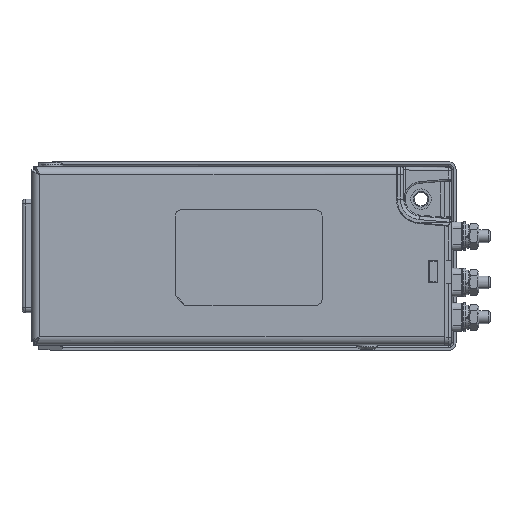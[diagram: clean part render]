
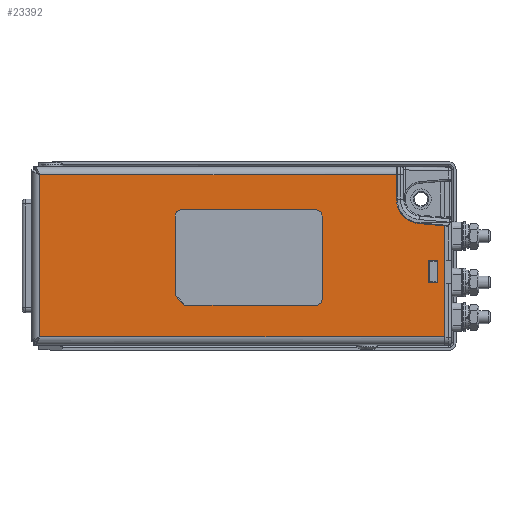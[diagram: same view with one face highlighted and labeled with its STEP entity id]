
A CAD part, top view. The second image highlights one B-rep face of the part: STEP entity #23392.
In plain terms, the highlighted planar face has unit normal (0, 0, 1).
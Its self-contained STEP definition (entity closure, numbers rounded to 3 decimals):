
#490=FACE_BOUND('',#3763,.T.);
#491=FACE_BOUND('',#3764,.T.);
#1130=PLANE('',#25701);
#2399=FACE_OUTER_BOUND('',#3762,.T.);
#3762=EDGE_LOOP('',(#20351,#20352,#20353,#20354,#20355,#20356,#20357,#20358));
#3763=EDGE_LOOP('',(#20359,#20360,#20361,#20362));
#3764=EDGE_LOOP('',(#20363,#20364,#20365,#20366,#20367,#20368,#20369,#20370,
#20371,#20372));
#4332=CIRCLE('',#24192,7.5);
#4925=CIRCLE('',#25702,2.);
#4926=CIRCLE('',#25703,2.);
#4927=CIRCLE('',#25704,2.);
#5234=LINE('',#33701,#7133);
#5235=LINE('',#33752,#7134);
#5239=LINE('',#33790,#7138);
#5290=LINE('',#33896,#7189);
#5293=LINE('',#33901,#7192);
#5295=LINE('',#33905,#7194);
#5297=LINE('',#33908,#7196);
#5359=LINE('',#34031,#7258);
#5362=LINE('',#34036,#7261);
#5892=LINE('',#35734,#7791);
#5906=LINE('',#35776,#7805);
#5924=LINE('',#35909,#7823);
#5927=LINE('',#35913,#7826);
#6817=LINE('',#42809,#8716);
#6818=LINE('',#42813,#8717);
#6819=LINE('',#42817,#8718);
#6820=LINE('',#42821,#8719);
#6821=LINE('',#42822,#8720);
#7133=VECTOR('',#26431,10.);
#7134=VECTOR('',#26436,10.);
#7138=VECTOR('',#26446,10.);
#7189=VECTOR('',#26531,10.);
#7192=VECTOR('',#26536,10.);
#7194=VECTOR('',#26540,10.);
#7196=VECTOR('',#26544,10.);
#7258=VECTOR('',#26670,10.);
#7261=VECTOR('',#26675,10.);
#7791=VECTOR('',#28173,10.);
#7805=VECTOR('',#28207,10.);
#7823=VECTOR('',#28255,10.);
#7826=VECTOR('',#28260,10.);
#8716=VECTOR('',#32158,10.);
#8717=VECTOR('',#32161,10.);
#8718=VECTOR('',#32164,10.);
#8719=VECTOR('',#32167,10.);
#8720=VECTOR('',#32168,10.);
#9088=VERTEX_POINT('',#33417);
#9091=VERTEX_POINT('',#33465);
#9154=VERTEX_POINT('',#33700);
#9158=VERTEX_POINT('',#33788);
#9195=VERTEX_POINT('',#33894);
#9196=VERTEX_POINT('',#33895);
#9197=VERTEX_POINT('',#33900);
#9198=VERTEX_POINT('',#33904);
#9218=VERTEX_POINT('',#34004);
#9225=VERTEX_POINT('',#34024);
#9227=VERTEX_POINT('',#34030);
#9672=VERTEX_POINT('',#35732);
#9690=VERTEX_POINT('',#35775);
#9706=VERTEX_POINT('',#35827);
#9714=VERTEX_POINT('',#35908);
#10705=VERTEX_POINT('',#42808);
#10706=VERTEX_POINT('',#42810);
#10707=VERTEX_POINT('',#42812);
#10708=VERTEX_POINT('',#42814);
#10709=VERTEX_POINT('',#42816);
#10710=VERTEX_POINT('',#42818);
#10711=VERTEX_POINT('',#42820);
#11194=EDGE_CURVE('',#9154,#9088,#5234,.T.);
#11199=EDGE_CURVE('',#9088,#9091,#5235,.T.);
#11204=EDGE_CURVE('',#9091,#9158,#5239,.T.);
#11255=EDGE_CURVE('',#9195,#9196,#5290,.T.);
#11258=EDGE_CURVE('',#9197,#9195,#5293,.T.);
#11260=EDGE_CURVE('',#9198,#9197,#5295,.T.);
#11262=EDGE_CURVE('',#9196,#9198,#5297,.T.);
#11324=EDGE_CURVE('',#9227,#9225,#5359,.T.);
#11327=EDGE_CURVE('',#9218,#9227,#5362,.T.);
#12069=EDGE_CURVE('',#9672,#9158,#5892,.T.);
#12090=EDGE_CURVE('',#9690,#9154,#5906,.T.);
#12110=EDGE_CURVE('',#9706,#9690,#4332,.T.);
#12121=EDGE_CURVE('',#9714,#9706,#5924,.T.);
#12124=EDGE_CURVE('',#9714,#9672,#5927,.T.);
#13929=EDGE_CURVE('',#9225,#10705,#6817,.T.);
#13930=EDGE_CURVE('',#10705,#10706,#4925,.T.);
#13931=EDGE_CURVE('',#10706,#10707,#6818,.T.);
#13932=EDGE_CURVE('',#10707,#10708,#4926,.T.);
#13933=EDGE_CURVE('',#10708,#10709,#6819,.T.);
#13934=EDGE_CURVE('',#10709,#10710,#4927,.T.);
#13935=EDGE_CURVE('',#10710,#10711,#6820,.T.);
#13936=EDGE_CURVE('',#10711,#9218,#6821,.T.);
#20351=ORIENTED_EDGE('',*,*,#11199,.T.);
#20352=ORIENTED_EDGE('',*,*,#11204,.T.);
#20353=ORIENTED_EDGE('',*,*,#12069,.F.);
#20354=ORIENTED_EDGE('',*,*,#12124,.F.);
#20355=ORIENTED_EDGE('',*,*,#12121,.T.);
#20356=ORIENTED_EDGE('',*,*,#12110,.T.);
#20357=ORIENTED_EDGE('',*,*,#12090,.T.);
#20358=ORIENTED_EDGE('',*,*,#11194,.T.);
#20359=ORIENTED_EDGE('',*,*,#11255,.T.);
#20360=ORIENTED_EDGE('',*,*,#11262,.T.);
#20361=ORIENTED_EDGE('',*,*,#11260,.T.);
#20362=ORIENTED_EDGE('',*,*,#11258,.T.);
#20363=ORIENTED_EDGE('',*,*,#13929,.T.);
#20364=ORIENTED_EDGE('',*,*,#13930,.T.);
#20365=ORIENTED_EDGE('',*,*,#13931,.T.);
#20366=ORIENTED_EDGE('',*,*,#13932,.T.);
#20367=ORIENTED_EDGE('',*,*,#13933,.T.);
#20368=ORIENTED_EDGE('',*,*,#13934,.T.);
#20369=ORIENTED_EDGE('',*,*,#13935,.T.);
#20370=ORIENTED_EDGE('',*,*,#13936,.T.);
#20371=ORIENTED_EDGE('',*,*,#11327,.T.);
#20372=ORIENTED_EDGE('',*,*,#11324,.T.);
#23392=ADVANCED_FACE('',(#2399,#490,#491),#1130,.T.);
#24192=AXIS2_PLACEMENT_3D('',#35828,#28239,#28240);
#25701=AXIS2_PLACEMENT_3D('',#42807,#32156,#32157);
#25702=AXIS2_PLACEMENT_3D('',#42811,#32159,#32160);
#25703=AXIS2_PLACEMENT_3D('',#42815,#32162,#32163);
#25704=AXIS2_PLACEMENT_3D('',#42819,#32165,#32166);
#26431=DIRECTION('',(-1.,0.,0.));
#26436=DIRECTION('',(0.,-1.,0.));
#26446=DIRECTION('',(1.,0.,0.));
#26531=DIRECTION('',(-1.,0.,0.));
#26536=DIRECTION('',(0.,-1.,0.));
#26540=DIRECTION('',(1.,0.,0.));
#26544=DIRECTION('',(0.,1.,0.));
#26670=DIRECTION('',(0.,1.,0.));
#26675=DIRECTION('',(-0.707,0.707,0.));
#28173=DIRECTION('',(0.,-1.,0.));
#28207=DIRECTION('',(0.,1.,0.));
#28239=DIRECTION('center_axis',(0.,0.,
-1.));
#28240=DIRECTION('ref_axis',(-1.,0.,0.));
#28255=DIRECTION('',(-0.996,0.087,0.));
#28260=DIRECTION('',(0.676,-0.737,0.));
#32156=DIRECTION('center_axis',(0.,0.,
1.));
#32157=DIRECTION('ref_axis',(0.,-1.,0.));
#32158=DIRECTION('',(0.,1.,0.));
#32159=DIRECTION('center_axis',(0.,0.,
-1.));
#32160=DIRECTION('ref_axis',(-0.707,0.707,0.));
#32161=DIRECTION('',(1.,0.,0.));
#32162=DIRECTION('center_axis',(0.,0.,
-1.));
#32163=DIRECTION('ref_axis',(0.707,0.707,0.));
#32164=DIRECTION('',(0.,-1.,0.));
#32165=DIRECTION('center_axis',(0.,0.,
-1.));
#32166=DIRECTION('ref_axis',(0.707,-0.707,0.));
#32167=DIRECTION('',(-1.,0.,0.));
#32168=DIRECTION('',(-0.707,0.707,0.));
#33417=CARTESIAN_POINT('',(-82.6,25.4,34.9));
#33465=CARTESIAN_POINT('',(-82.6,-25.4,34.9));
#33700=CARTESIAN_POINT('',(29.2,25.4,34.9));
#33701=CARTESIAN_POINT('',(11.875,25.4,34.9));
#33752=CARTESIAN_POINT('',(-82.6,-12.7,34.9));
#33788=CARTESIAN_POINT('',(44.2,-25.4,34.9));
#33790=CARTESIAN_POINT('',(-52.775,-25.4,34.9));
#33894=CARTESIAN_POINT('',(42.2,-8.5,34.9));
#33895=CARTESIAN_POINT('',(39.2,-8.5,34.9));
#33896=CARTESIAN_POINT('',(10.875,-8.5,34.9));
#33900=CARTESIAN_POINT('',(42.2,-1.5,34.9));
#33901=CARTESIAN_POINT('',(42.2,-0.75,34.9));
#33904=CARTESIAN_POINT('',(39.2,-1.5,34.9));
#33905=CARTESIAN_POINT('',(9.375,-1.5,34.9));
#33908=CARTESIAN_POINT('',(39.2,-4.25,34.9));
#34004=CARTESIAN_POINT('',(-37.625,-15.,34.9));
#34024=CARTESIAN_POINT('',(-40.1,-9.025,34.9));
#34030=CARTESIAN_POINT('',(-40.1,-12.525,34.9));
#34031=CARTESIAN_POINT('',(-40.1,-6.263,34.9));
#34036=CARTESIAN_POINT('',(-37.081,-15.544,34.9));
#35732=CARTESIAN_POINT('',(44.2,8.915,34.9));
#35734=CARTESIAN_POINT('',(44.2,27.9,34.9));
#35775=CARTESIAN_POINT('',(29.2,17.6,34.9));
#35776=CARTESIAN_POINT('',(29.2,8.8,34.9));
#35827=CARTESIAN_POINT('',(36.046,10.129,34.9));
#35828=CARTESIAN_POINT('Origin',(36.7,17.6,34.9));
#35908=CARTESIAN_POINT('',(43.702,9.459,34.9));
#35909=CARTESIAN_POINT('',(12.529,12.186,34.9));
#35913=CARTESIAN_POINT('',(31.542,22.729,34.9));
#42807=CARTESIAN_POINT('Origin',(-20.45,0.,
34.9));
#42808=CARTESIAN_POINT('',(-40.1,12.475,34.9));
#42809=CARTESIAN_POINT('',(-40.1,-7.763,34.9));
#42810=CARTESIAN_POINT('',(-38.1,14.475,34.9));
#42811=CARTESIAN_POINT('Origin',(-38.1,12.475,34.9));
#42812=CARTESIAN_POINT('',(3.9,14.475,34.9));
#42813=CARTESIAN_POINT('',(-30.275,14.475,34.9));
#42814=CARTESIAN_POINT('',(5.9,12.475,34.9));
#42815=CARTESIAN_POINT('Origin',(3.9,12.475,34.9));
#42816=CARTESIAN_POINT('',(5.9,-13.525,34.9));
#42817=CARTESIAN_POINT('',(5.9,7.237,34.9));
#42818=CARTESIAN_POINT('',(3.9,-15.525,34.9));
#42819=CARTESIAN_POINT('Origin',(3.9,-13.525,34.9));
#42820=CARTESIAN_POINT('',(-37.1,-15.525,34.9));
#42821=CARTESIAN_POINT('',(-7.275,-15.525,34.9));
#42822=CARTESIAN_POINT('',(-37.569,-15.056,34.9));
